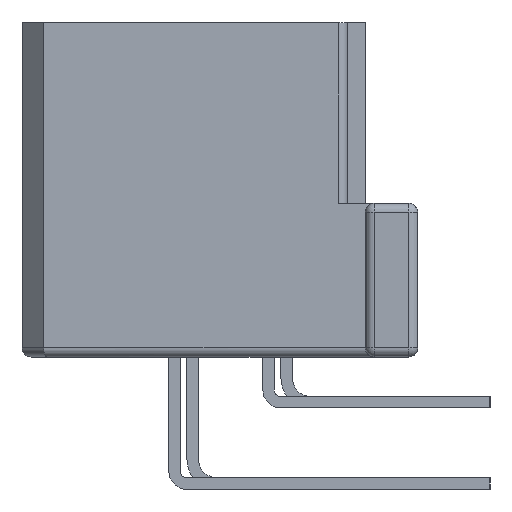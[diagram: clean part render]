
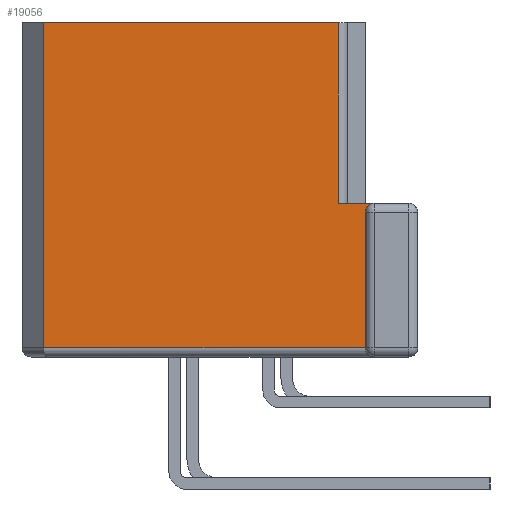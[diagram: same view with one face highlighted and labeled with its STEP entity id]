
A CAD part, left-side view. The second image highlights one B-rep face of the part: STEP entity #19056.
In plain terms, the highlighted planar face has unit normal (-1, 0, 0).
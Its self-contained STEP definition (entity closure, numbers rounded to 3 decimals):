
#18310 = VERTEX_POINT('',#18311);
#18311 = CARTESIAN_POINT('',(0.,1.14,-7.074));
#18339 = EDGE_CURVE('',#18310,#18340,#18342,.T.);
#18340 = VERTEX_POINT('',#18341);
#18341 = CARTESIAN_POINT('',(0.,8.135,-7.074));
#18342 = LINE('',#18343,#18344);
#18343 = CARTESIAN_POINT('',(0.,1.14,-7.074));
#18344 = VECTOR('',#18345,1.);
#18345 = DIRECTION('',(0.,1.,0.));
#18404 = VERTEX_POINT('',#18405);
#18405 = CARTESIAN_POINT('',(0.,8.135,0.));
#18411 = EDGE_CURVE('',#18340,#18404,#18412,.T.);
#18412 = LINE('',#18413,#18414);
#18413 = CARTESIAN_POINT('',(0.,8.135,-7.074));
#18414 = VECTOR('',#18415,1.);
#18415 = DIRECTION('',(0.,0.,1.));
#18804 = EDGE_CURVE('',#18805,#18807,#18809,.T.);
#18805 = VERTEX_POINT('',#18806);
#18806 = CARTESIAN_POINT('',(0.,0.943,-3.93));
#18807 = VERTEX_POINT('',#18808);
#18808 = CARTESIAN_POINT('',(0.,1.729,-3.93));
#18809 = LINE('',#18810,#18811);
#18810 = CARTESIAN_POINT('',(0.,0.943,-3.93));
#18811 = VECTOR('',#18812,1.);
#18812 = DIRECTION('',(0.,1.,0.));
#19056 = ADVANCED_FACE('',(#19057),#19099,.F.);
#19057 = FACE_BOUND('',#19058,.F.);
#19058 = EDGE_LOOP('',(#19059,#19060,#19069,#19077,#19083,#19084,#19085,
    #19093));
#19059 = ORIENTED_EDGE('',*,*,#18804,.F.);
#19060 = ORIENTED_EDGE('',*,*,#19061,.F.);
#19061 = EDGE_CURVE('',#19062,#18805,#19064,.T.);
#19062 = VERTEX_POINT('',#19063);
#19063 = CARTESIAN_POINT('',(0.,1.14,-4.127));
#19064 = CIRCLE('',#19065,0.197);
#19065 = AXIS2_PLACEMENT_3D('',#19066,#19067,#19068);
#19066 = CARTESIAN_POINT('',(0.,0.943,-4.127));
#19067 = DIRECTION('',(1.,0.,0.));
#19068 = DIRECTION('',(0.,1.,0.));
#19069 = ORIENTED_EDGE('',*,*,#19070,.T.);
#19070 = EDGE_CURVE('',#19062,#19071,#19073,.T.);
#19071 = VERTEX_POINT('',#19072);
#19072 = CARTESIAN_POINT('',(0.,1.14,-6.013));
#19073 = LINE('',#19074,#19075);
#19074 = CARTESIAN_POINT('',(0.,1.14,-4.127));
#19075 = VECTOR('',#19076,1.);
#19076 = DIRECTION('',(0.,0.,-1.));
#19077 = ORIENTED_EDGE('',*,*,#19078,.T.);
#19078 = EDGE_CURVE('',#19071,#18310,#19079,.T.);
#19079 = LINE('',#19080,#19081);
#19080 = CARTESIAN_POINT('',(0.,1.14,-6.013));
#19081 = VECTOR('',#19082,1.);
#19082 = DIRECTION('',(0.,0.,-1.));
#19083 = ORIENTED_EDGE('',*,*,#18339,.T.);
#19084 = ORIENTED_EDGE('',*,*,#18411,.T.);
#19085 = ORIENTED_EDGE('',*,*,#19086,.T.);
#19086 = EDGE_CURVE('',#18404,#19087,#19089,.T.);
#19087 = VERTEX_POINT('',#19088);
#19088 = CARTESIAN_POINT('',(0.,1.729,0.));
#19089 = LINE('',#19090,#19091);
#19090 = CARTESIAN_POINT('',(0.,8.135,0.));
#19091 = VECTOR('',#19092,1.);
#19092 = DIRECTION('',(0.,-1.,0.));
#19093 = ORIENTED_EDGE('',*,*,#19094,.F.);
#19094 = EDGE_CURVE('',#18807,#19087,#19095,.T.);
#19095 = LINE('',#19096,#19097);
#19096 = CARTESIAN_POINT('',(0.,1.729,-3.93));
#19097 = VECTOR('',#19098,1.);
#19098 = DIRECTION('',(0.,0.,1.));
#19099 = PLANE('',#19100);
#19100 = AXIS2_PLACEMENT_3D('',#19101,#19102,#19103);
#19101 = CARTESIAN_POINT('',(0.,0.,0.));
#19102 = DIRECTION('',(1.,0.,0.));
#19103 = DIRECTION('',(0.,0.,-1.));
